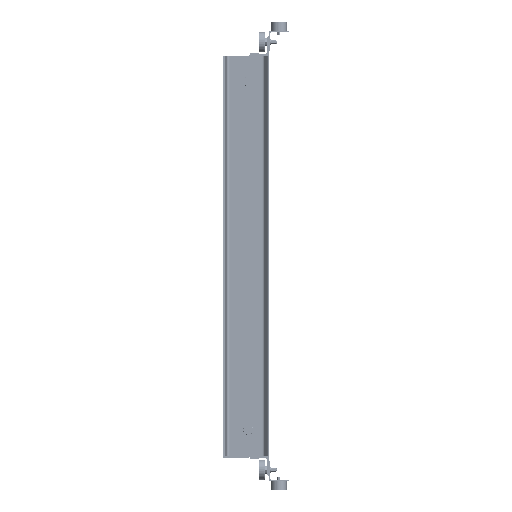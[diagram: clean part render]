
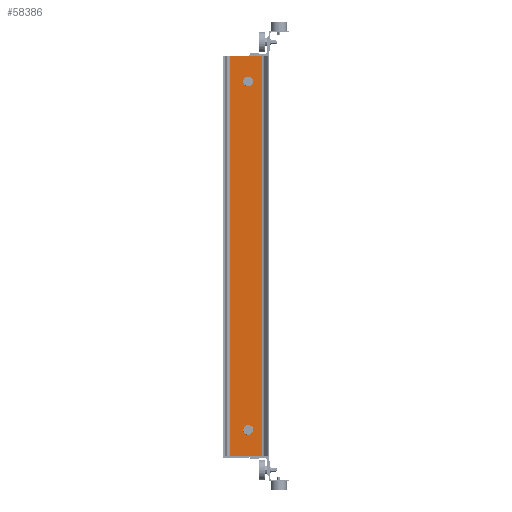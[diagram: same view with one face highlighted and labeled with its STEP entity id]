
A CAD part, left-side view. The second image highlights one B-rep face of the part: STEP entity #58386.
In plain terms, the highlighted planar face has unit normal (-1, 0, 0) as drawn and (1, 0, 0) by its records, which use the part's own axes.
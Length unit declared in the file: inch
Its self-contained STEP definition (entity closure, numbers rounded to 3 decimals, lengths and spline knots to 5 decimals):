
#463 = CARTESIAN_POINT ( 'NONE',  ( 0.353, 6.85768, 35. ) ) ;
#572 = CARTESIAN_POINT ( 'NONE',  ( 0.353, 6.85768, 35. ) ) ;
#1464 = VECTOR ( 'NONE', #17245, 39.37008 ) ;
#1948 = DIRECTION ( 'NONE',  ( -1., 0., 0. ) ) ;
#2717 = CIRCLE ( 'NONE', #4682, 0.789 ) ;
#3220 = CARTESIAN_POINT ( 'NONE',  ( 0.353, 3.622, -30.6 ) ) ;
#3458 = EDGE_CURVE ( 'NONE', #4792, #20526, #53801, .T. ) ;
#3636 = VERTEX_POINT ( 'NONE', #56549 ) ;
#4447 = EDGE_CURVE ( 'NONE', #27416, #3636, #7574, .T. ) ;
#4682 = AXIS2_PLACEMENT_3D ( 'NONE', #48532, #15453, #34132 ) ;
#4792 = VERTEX_POINT ( 'NONE', #54079 ) ;
#7452 = AXIS2_PLACEMENT_3D ( 'NONE', #37594, #1948, #58559 ) ;
#7574 = LINE ( 'NONE', #13070, #8861 ) ;
#7877 = FACE_OUTER_BOUND ( 'NONE', #26217, .T. ) ;
#7903 = CARTESIAN_POINT ( 'NONE',  ( 0.353, 1.14232, 35. ) ) ;
#8182 = DIRECTION ( 'NONE',  ( 1., 0., 0. ) ) ;
#8861 = VECTOR ( 'NONE', #13368, 39.37008 ) ;
#10935 = EDGE_LOOP ( 'NONE', ( #30285, #41443 ) ) ;
#13070 = CARTESIAN_POINT ( 'NONE',  ( 0.353, 6.85768, 35. ) ) ;
#13368 = DIRECTION ( 'NONE',  ( 0., 0., -1. ) ) ;
#13375 = CARTESIAN_POINT ( 'NONE',  ( 0.353, 6.85768, 35. ) ) ;
#13741 = ORIENTED_EDGE ( 'NONE', *, *, #55851, .F. ) ;
#14627 = LINE ( 'NONE', #18294, #27048 ) ;
#15121 = ORIENTED_EDGE ( 'NONE', *, *, #4447, .F. ) ;
#15453 = DIRECTION ( 'NONE',  ( -1., 0., 0. ) ) ;
#17245 = DIRECTION ( 'NONE',  ( 0., -1., 0. ) ) ;
#18241 = AXIS2_PLACEMENT_3D ( 'NONE', #13375, #8182, #55066 ) ;
#18294 = CARTESIAN_POINT ( 'NONE',  ( 0.353, 6.85768, -35. ) ) ;
#19901 = CIRCLE ( 'NONE', #51198, 0.789 ) ;
#20526 = VERTEX_POINT ( 'NONE', #56025 ) ;
#21705 = FACE_BOUND ( 'NONE', #25667, .T. ) ;
#22599 = PLANE ( 'NONE',  #18241 ) ;
#23196 = ORIENTED_EDGE ( 'NONE', *, *, #54929, .T. ) ;
#23222 = DIRECTION ( 'NONE',  ( 0., -1., 0. ) ) ;
#23765 = LINE ( 'NONE', #463, #1464 ) ;
#25667 = EDGE_LOOP ( 'NONE', ( #23196, #43426 ) ) ;
#25810 = LINE ( 'NONE', #57643, #45827 ) ;
#26217 = EDGE_LOOP ( 'NONE', ( #13741, #15121, #54803, #39839 ) ) ;
#26382 = EDGE_CURVE ( 'NONE', #57246, #44538, #19901, .T. ) ;
#26500 = DIRECTION ( 'NONE',  ( 0., 1., 0. ) ) ;
#27048 = VECTOR ( 'NONE', #23222, 39.37008 ) ;
#27416 = VERTEX_POINT ( 'NONE', #572 ) ;
#30285 = ORIENTED_EDGE ( 'NONE', *, *, #36535, .T. ) ;
#30610 = EDGE_CURVE ( 'NONE', #27416, #56755, #23765, .T. ) ;
#32092 = FACE_BOUND ( 'NONE', #10935, .T. ) ;
#34132 = DIRECTION ( 'NONE',  ( 0., 1., 0. ) ) ;
#34558 = DIRECTION ( 'NONE',  ( -1., 0., 0. ) ) ;
#36535 = EDGE_CURVE ( 'NONE', #20526, #4792, #2717, .T. ) ;
#37594 = CARTESIAN_POINT ( 'NONE',  ( 0.353, 3.622, -30.6 ) ) ;
#38182 = VERTEX_POINT ( 'NONE', #58377 ) ;
#38198 = AXIS2_PLACEMENT_3D ( 'NONE', #44366, #34558, #52323 ) ;
#39839 = ORIENTED_EDGE ( 'NONE', *, *, #52582, .T. ) ;
#39902 = DIRECTION ( 'NONE',  ( 0., 0., -1. ) ) ;
#41443 = ORIENTED_EDGE ( 'NONE', *, *, #3458, .T. ) ;
#42136 = CARTESIAN_POINT ( 'NONE',  ( 0.353, 3.622, -31.389 ) ) ;
#43426 = ORIENTED_EDGE ( 'NONE', *, *, #26382, .T. ) ;
#43566 = CARTESIAN_POINT ( 'NONE',  ( 0.353, 3.622, -29.811 ) ) ;
#43637 = CIRCLE ( 'NONE', #7452, 0.789 ) ;
#44366 = CARTESIAN_POINT ( 'NONE',  ( 0.353, 3.622, 30.5 ) ) ;
#44538 = VERTEX_POINT ( 'NONE', #43566 ) ;
#45827 = VECTOR ( 'NONE', #39902, 39.37008 ) ;
#48532 = CARTESIAN_POINT ( 'NONE',  ( 0.353, 3.622, 30.5 ) ) ;
#49483 = DIRECTION ( 'NONE',  ( -1., 0., 0. ) ) ;
#51198 = AXIS2_PLACEMENT_3D ( 'NONE', #3220, #49483, #26500 ) ;
#52323 = DIRECTION ( 'NONE',  ( 0., 1., 0. ) ) ;
#52582 = EDGE_CURVE ( 'NONE', #56755, #38182, #25810, .T. ) ;
#53801 = CIRCLE ( 'NONE', #38198, 0.789 ) ;
#54079 = CARTESIAN_POINT ( 'NONE',  ( 0.353, 3.622, 29.711 ) ) ;
#54803 = ORIENTED_EDGE ( 'NONE', *, *, #30610, .T. ) ;
#54929 = EDGE_CURVE ( 'NONE', #44538, #57246, #43637, .T. ) ;
#55066 = DIRECTION ( 'NONE',  ( 0., 1., 0. ) ) ;
#55851 = EDGE_CURVE ( 'NONE', #3636, #38182, #14627, .T. ) ;
#56025 = CARTESIAN_POINT ( 'NONE',  ( 0.353, 3.622, 31.289 ) ) ;
#56549 = CARTESIAN_POINT ( 'NONE',  ( 0.353, 6.85768, -35. ) ) ;
#56755 = VERTEX_POINT ( 'NONE', #7903 ) ;
#57246 = VERTEX_POINT ( 'NONE', #42136 ) ;
#57643 = CARTESIAN_POINT ( 'NONE',  ( 0.353, 1.14232, 35. ) ) ;
#58377 = CARTESIAN_POINT ( 'NONE',  ( 0.353, 1.14232, -35. ) ) ;
#58386 = ADVANCED_FACE ( 'NONE', ( #32092, #7877, #21705 ), #22599, .T. ) ;
#58559 = DIRECTION ( 'NONE',  ( 0., 1., 0. ) ) ;
